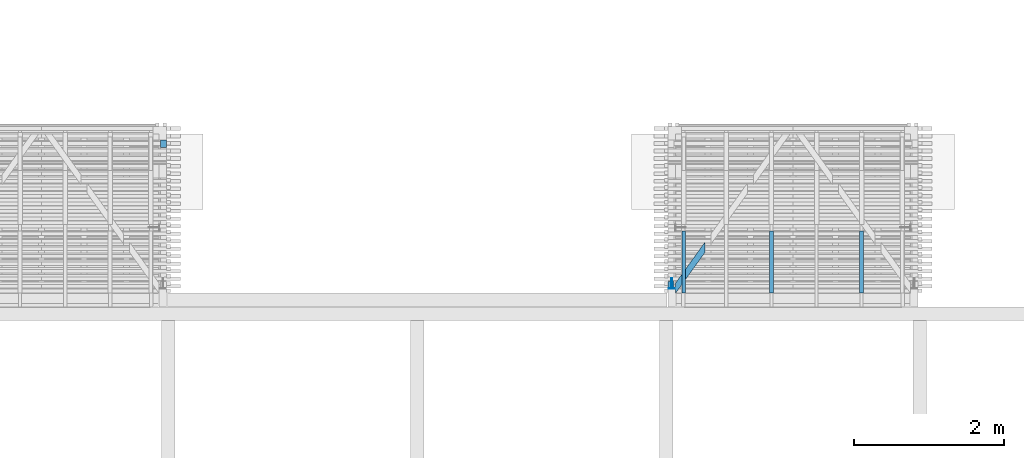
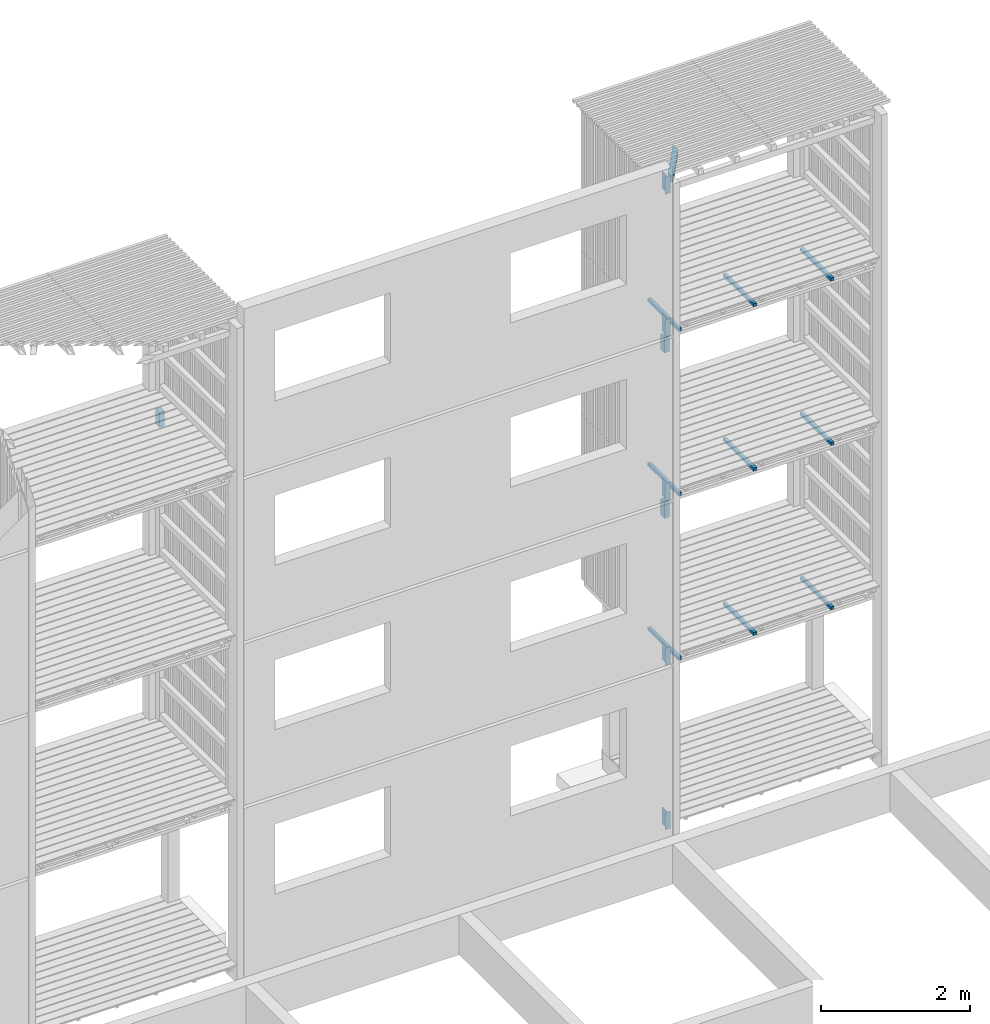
# One storey, part 174 of 182: 18 beams.
"""IFC2X3 building model written with IfcOpenShell, lengths in metres."""

from ifc_helpers import new_model, si_unit, frame, origin, place, context, project, spatial, faceted_brep, element, save


model = new_model("IFC2X3")

# Units and contexts
model_context = context("Model", 3, precision=1e-06, world=origin())
ifc_project = project(units=[si_unit("LENGTHUNIT", "METRE"), si_unit("PLANEANGLEUNIT", "RADIAN")], contexts=[model_context])

# Site, building, storey
site = spatial("IfcSite", under=ifc_project, CompositionType="ELEMENT")
building = spatial("IfcBuilding", under=site, CompositionType="ELEMENT")
storey = spatial("IfcBuildingStorey", under=building, Name="vs", CompositionType="ELEMENT", Elevation=-0.85)

# Beams
placement = place(None, origin())
beam_1_placement = place(placement, frame((55.60299999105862, 5.055077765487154, 5.217999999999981), z_axis=(0.0, 0.0, 1.0), x_axis=(0.0, 1.0, 0.0)))
element("IfcBeam", 1, at=beam_1_placement, inside=storey, Name="Calage", context=model_context, shape_type="Brep", body=[
    faceted_brep([(0.824999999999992, -0.025000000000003, 0.024999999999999), (0.824999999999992, 0.024999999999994, 0.024999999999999), (-1e-15, 0.024999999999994, 0.024999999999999), (-1e-15, -0.025000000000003, 0.024999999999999), (-1e-15, 0.024999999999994, 0.024999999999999), (0.824999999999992, 0.024999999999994, 0.024999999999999), (0.824999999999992, 0.024999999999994, -0.025), (-1e-15, 0.024999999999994, -0.025), (0.824999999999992, 0.024999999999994, 0.024999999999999), (0.824999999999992, -0.025000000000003, 0.024999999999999), (0.824999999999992, -0.025000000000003, -0.025), (0.824999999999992, 0.024999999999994, -0.025), (0.824999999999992, -0.025000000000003, -0.025), (0.824999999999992, -0.025000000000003, 0.024999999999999), (-1e-15, -0.025000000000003, 0.024999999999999), (-1e-15, -0.025000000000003, -0.025), (-1e-15, 0.024999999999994, -0.025), (0.824999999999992, 0.024999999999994, -0.025), (0.824999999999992, -0.025000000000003, -0.025), (-1e-15, -0.025000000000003, -0.025), (-1e-15, 0.024999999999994, 0.024999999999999), (-1e-15, 0.024999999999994, -0.025), (-1e-15, -0.025000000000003, -0.025), (-1e-15, -0.025000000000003, 0.024999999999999)], [[[0, 1, 2, 3]], [[4, 5, 6, 7]], [[8, 9, 10, 11]], [[12, 13, 14, 15]], [[16, 17, 18, 19]], [[20, 21, 22, 23]]]),
])
beam_2_placement = place(placement, frame((53.033999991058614, 5.181077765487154, 5.279999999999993), z_axis=(0.0, 0.0, 1.0), x_axis=(1.0, 0.0, 0.0)))
element("IfcBeam", 2, at=beam_2_placement, inside=storey, Name="Contre-usinage", context=model_context, shape_type="Brep", body=[
    faceted_brep([(0.037000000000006, -0.065999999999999, -0.140000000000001), (0.037000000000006, 0.071000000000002, -0.140000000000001), (0.045000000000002, 0.071000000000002, -0.140000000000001), (0.045000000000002, -0.065999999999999, -0.140000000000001), (0.082000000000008, -0.065999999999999, -0.140000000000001), (0.082000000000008, -0.071000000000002, -0.140000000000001), (0.0, -0.071000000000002, -0.140000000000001), (0.0, -0.065999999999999, -0.140000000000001), (0.045000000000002, 0.071000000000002, -0.140000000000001), (0.037000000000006, 0.071000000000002, -0.140000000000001), (0.037000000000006, 0.071000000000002, 0.140000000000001), (0.045000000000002, 0.071000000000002, 0.140000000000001), (0.045000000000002, -0.065999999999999, 0.140000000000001), (0.045000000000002, -0.065999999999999, -0.140000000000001), (0.045000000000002, 0.071000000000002, -0.140000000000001), (0.045000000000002, 0.071000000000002, 0.140000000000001), (0.082000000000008, -0.065999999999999, -0.140000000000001), (0.045000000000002, -0.065999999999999, -0.140000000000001), (0.045000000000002, -0.065999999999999, 0.140000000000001), (0.082000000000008, -0.065999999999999, 0.140000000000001), (0.082000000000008, -0.071000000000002, -0.140000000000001), (0.082000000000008, -0.065999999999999, -0.140000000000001), (0.082000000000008, -0.065999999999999, 0.140000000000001), (0.082000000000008, -0.071000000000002, 0.140000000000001), (0.0, -0.071000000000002, -0.140000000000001), (0.082000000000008, -0.071000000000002, -0.140000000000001), (0.082000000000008, -0.071000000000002, 0.140000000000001), (0.0, -0.071000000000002, 0.140000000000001), (0.0, -0.065999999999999, -0.140000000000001), (0.0, -0.071000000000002, -0.140000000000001), (0.0, -0.071000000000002, 0.140000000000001), (0.0, -0.065999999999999, 0.140000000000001), (0.037000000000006, -0.065999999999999, -0.140000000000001), (0.0, -0.065999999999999, -0.140000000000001), (0.0, -0.065999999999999, 0.140000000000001), (0.037000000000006, -0.065999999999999, 0.140000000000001), (0.037000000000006, 0.071000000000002, 0.140000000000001), (0.037000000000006, 0.071000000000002, -0.140000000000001), (0.037000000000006, -0.065999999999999, -0.140000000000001), (0.037000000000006, -0.065999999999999, 0.140000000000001), (0.082000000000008, -0.065999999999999, 0.140000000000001), (0.045000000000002, -0.065999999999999, 0.140000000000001), (0.045000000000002, 0.071000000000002, 0.140000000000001), (0.037000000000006, 0.071000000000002, 0.140000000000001), (0.037000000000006, -0.065999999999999, 0.140000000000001), (0.0, -0.065999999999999, 0.140000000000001), (0.0, -0.071000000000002, 0.140000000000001), (0.082000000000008, -0.071000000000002, 0.140000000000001)], [[[0, 1, 2, 3, 4, 5, 6, 7]], [[8, 9, 10, 11]], [[12, 13, 14, 15]], [[16, 17, 18, 19]], [[20, 21, 22, 23]], [[24, 25, 26, 27]], [[28, 29, 30, 31]], [[32, 33, 34, 35]], [[36, 37, 38, 39]], [[40, 41, 42, 43, 44, 45, 46, 47]]]),
])
beam_3_placement = place(placement, frame((53.033999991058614, 5.181077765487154, 2.579999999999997), z_axis=(0.0, 0.0, 1.0), x_axis=(1.0, 0.0, 0.0)))
element("IfcBeam", 3, at=beam_3_placement, inside=storey, Name="Contre-usinage", context=model_context, shape_type="Brep", body=[
    faceted_brep([(0.037000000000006, -0.065999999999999, -0.14), (0.037000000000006, 0.071000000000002, -0.14), (0.045000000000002, 0.071000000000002, -0.14), (0.045000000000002, -0.065999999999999, -0.14), (0.082000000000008, -0.065999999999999, -0.14), (0.082000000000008, -0.071000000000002, -0.14), (0.0, -0.071000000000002, -0.14), (0.0, -0.065999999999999, -0.14), (0.045000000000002, 0.071000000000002, -0.14), (0.037000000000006, 0.071000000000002, -0.14), (0.037000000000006, 0.071000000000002, 0.14), (0.045000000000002, 0.071000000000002, 0.14), (0.045000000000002, -0.065999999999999, 0.14), (0.045000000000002, -0.065999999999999, -0.14), (0.045000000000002, 0.071000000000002, -0.14), (0.045000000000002, 0.071000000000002, 0.14), (0.082000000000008, -0.065999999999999, -0.14), (0.045000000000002, -0.065999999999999, -0.14), (0.045000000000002, -0.065999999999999, 0.14), (0.082000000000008, -0.065999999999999, 0.14), (0.082000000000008, -0.071000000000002, -0.14), (0.082000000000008, -0.065999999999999, -0.14), (0.082000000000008, -0.065999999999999, 0.14), (0.082000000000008, -0.071000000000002, 0.14), (0.0, -0.071000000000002, -0.14), (0.082000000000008, -0.071000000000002, -0.14), (0.082000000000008, -0.071000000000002, 0.14), (0.0, -0.071000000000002, 0.14), (0.0, -0.065999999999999, -0.14), (0.0, -0.071000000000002, -0.14), (0.0, -0.071000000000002, 0.14), (0.0, -0.065999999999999, 0.14), (0.037000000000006, -0.065999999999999, -0.14), (0.0, -0.065999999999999, -0.14), (0.0, -0.065999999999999, 0.14), (0.037000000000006, -0.065999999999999, 0.14), (0.037000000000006, 0.071000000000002, 0.14), (0.037000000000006, 0.071000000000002, -0.14), (0.037000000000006, -0.065999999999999, -0.14), (0.037000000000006, -0.065999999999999, 0.14), (0.082000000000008, -0.065999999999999, 0.14), (0.045000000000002, -0.065999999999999, 0.14), (0.045000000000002, 0.071000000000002, 0.14), (0.037000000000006, 0.071000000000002, 0.14), (0.037000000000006, -0.065999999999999, 0.14), (0.0, -0.065999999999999, 0.14), (0.0, -0.071000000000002, 0.14), (0.082000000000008, -0.071000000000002, 0.14)], [[[0, 1, 2, 3, 4, 5, 6, 7]], [[8, 9, 10, 11]], [[12, 13, 14, 15]], [[16, 17, 18, 19]], [[20, 21, 22, 23]], [[24, 25, 26, 27]], [[28, 29, 30, 31]], [[32, 33, 34, 35]], [[36, 37, 38, 39]], [[40, 41, 42, 43, 44, 45, 46, 47]]]),
])
beam_4_placement = place(placement, frame((53.03399999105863, 5.181077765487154, 7.979999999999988), z_axis=(0.0, 0.0, 1.0), x_axis=(1.0, 0.0, 0.0)))
element("IfcBeam", 4, at=beam_4_placement, inside=storey, Name="Contre-usinage", context=model_context, shape_type="Brep", body=[
    faceted_brep([(0.036999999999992, -0.065999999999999, -0.14), (0.036999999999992, 0.071000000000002, -0.14), (0.044999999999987, 0.071000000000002, -0.14), (0.044999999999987, -0.065999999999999, -0.14), (0.081999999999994, -0.065999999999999, -0.14), (0.081999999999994, -0.071000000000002, -0.14), (0.0, -0.071000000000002, -0.14), (0.0, -0.065999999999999, -0.14), (0.044999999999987, 0.071000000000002, -0.14), (0.036999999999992, 0.071000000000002, -0.14), (0.036999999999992, 0.071000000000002, 0.140000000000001), (0.044999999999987, 0.071000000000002, 0.140000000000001), (0.044999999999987, -0.065999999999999, 0.140000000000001), (0.044999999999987, -0.065999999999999, -0.14), (0.044999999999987, 0.071000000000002, -0.14), (0.044999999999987, 0.071000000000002, 0.140000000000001), (0.081999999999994, -0.065999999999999, -0.14), (0.044999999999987, -0.065999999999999, -0.14), (0.044999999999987, -0.065999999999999, 0.140000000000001), (0.081999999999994, -0.065999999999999, 0.140000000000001), (0.081999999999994, -0.071000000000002, -0.14), (0.081999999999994, -0.065999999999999, -0.14), (0.081999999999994, -0.065999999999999, 0.140000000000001), (0.081999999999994, -0.071000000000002, 0.140000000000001), (0.0, -0.071000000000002, -0.14), (0.081999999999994, -0.071000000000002, -0.14), (0.081999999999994, -0.071000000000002, 0.140000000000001), (0.0, -0.071000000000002, 0.140000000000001), (0.0, -0.065999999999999, -0.14), (0.0, -0.071000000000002, -0.14), (0.0, -0.071000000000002, 0.140000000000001), (0.0, -0.065999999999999, 0.140000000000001), (0.036999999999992, -0.065999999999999, -0.14), (0.0, -0.065999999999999, -0.14), (0.0, -0.065999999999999, 0.140000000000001), (0.036999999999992, -0.065999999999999, 0.140000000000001), (0.036999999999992, 0.071000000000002, 0.140000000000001), (0.036999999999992, 0.071000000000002, -0.14), (0.036999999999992, -0.065999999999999, -0.14), (0.036999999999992, -0.065999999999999, 0.140000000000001), (0.081999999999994, -0.065999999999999, 0.140000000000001), (0.044999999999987, -0.065999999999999, 0.140000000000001), (0.044999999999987, 0.071000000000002, 0.140000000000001), (0.036999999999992, 0.071000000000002, 0.140000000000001), (0.036999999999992, -0.065999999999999, 0.140000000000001), (0.0, -0.065999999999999, 0.140000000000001), (0.0, -0.071000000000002, 0.140000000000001), (0.081999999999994, -0.071000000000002, 0.140000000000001)], [[[0, 1, 2, 3, 4, 5, 6, 7]], [[8, 9, 10, 11]], [[12, 13, 14, 15]], [[16, 17, 18, 19]], [[20, 21, 22, 23]], [[24, 25, 26, 27]], [[28, 29, 30, 31]], [[32, 33, 34, 35]], [[36, 37, 38, 39]], [[40, 41, 42, 43, 44, 45, 46, 47]]]),
])
for number, where, z_axis, x_axis in (
    (5, (53.23499999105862, 5.055077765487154, 2.517999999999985), (0.0, 0.0, 1.0), (0.0, 1.0, 0.0)),
    (6, (54.402999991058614, 5.055077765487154, 2.517999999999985), (0.0, 0.0, 1.0), (0.0, 1.0, 0.0)),
):
    element("IfcBeam", number, at=place(placement, frame(where, z_axis=z_axis, x_axis=x_axis)), inside=storey, Name="Calage", context=model_context, shape_type="Brep", body=[
        faceted_brep([(0.824999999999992, -0.025000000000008, 0.025), (0.824999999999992, 0.024999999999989, 0.025), (-1e-15, 0.024999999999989, 0.025), (-1e-15, -0.025000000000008, 0.025), (-1e-15, 0.024999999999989, 0.025), (0.824999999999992, 0.024999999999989, 0.025), (0.824999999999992, 0.024999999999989, -0.025), (-1e-15, 0.024999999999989, -0.025), (0.824999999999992, 0.024999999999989, 0.025), (0.824999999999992, -0.025000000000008, 0.025), (0.824999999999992, -0.025000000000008, -0.025), (0.824999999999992, 0.024999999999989, -0.025), (0.824999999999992, -0.025000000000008, -0.025), (0.824999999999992, -0.025000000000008, 0.025), (-1e-15, -0.025000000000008, 0.025), (-1e-15, -0.025000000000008, -0.025), (-1e-15, 0.024999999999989, -0.025), (0.824999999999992, 0.024999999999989, -0.025), (0.824999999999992, -0.025000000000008, -0.025), (-1e-15, -0.025000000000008, -0.025), (-1e-15, 0.024999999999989, 0.025), (-1e-15, 0.024999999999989, -0.025), (-1e-15, -0.025000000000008, -0.025), (-1e-15, -0.025000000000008, 0.025)], [[[0, 1, 2, 3]], [[4, 5, 6, 7]], [[8, 9, 10, 11]], [[12, 13, 14, 15]], [[16, 17, 18, 19]], [[20, 21, 22, 23]]]),
    ])
beam_5_placement = place(placement, frame((53.033999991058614, 5.181077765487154, -0.119999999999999), z_axis=(0.0, 0.0, 1.0), x_axis=(1.0, 0.0, 0.0)))
element("IfcBeam", 7, at=beam_5_placement, inside=storey, Name="Contre-usinage", context=model_context, shape_type="Brep", body=[
    faceted_brep([(0.037000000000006, -0.065999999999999, -0.14), (0.037000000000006, 0.071000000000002, -0.14), (0.045000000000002, 0.071000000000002, -0.14), (0.045000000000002, -0.065999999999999, -0.14), (0.082000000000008, -0.065999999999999, -0.14), (0.082000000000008, -0.071000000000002, -0.14), (0.0, -0.071000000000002, -0.14), (0.0, -0.065999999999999, -0.14), (0.045000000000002, 0.071000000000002, -0.14), (0.037000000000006, 0.071000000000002, -0.14), (0.037000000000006, 0.071000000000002, 0.14), (0.045000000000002, 0.071000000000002, 0.14), (0.045000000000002, -0.065999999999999, 0.14), (0.045000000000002, -0.065999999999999, -0.14), (0.045000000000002, 0.071000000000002, -0.14), (0.045000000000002, 0.071000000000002, 0.14), (0.082000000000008, -0.065999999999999, -0.14), (0.045000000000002, -0.065999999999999, -0.14), (0.045000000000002, -0.065999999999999, 0.14), (0.082000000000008, -0.065999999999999, 0.14), (0.082000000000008, -0.071000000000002, -0.14), (0.082000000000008, -0.065999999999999, -0.14), (0.082000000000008, -0.065999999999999, 0.14), (0.082000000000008, -0.071000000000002, 0.14), (0.0, -0.071000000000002, -0.14), (0.082000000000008, -0.071000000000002, -0.14), (0.082000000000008, -0.071000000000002, 0.14), (0.0, -0.071000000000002, 0.14), (0.0, -0.065999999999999, -0.14), (0.0, -0.071000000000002, -0.14), (0.0, -0.071000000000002, 0.14), (0.0, -0.065999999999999, 0.14), (0.037000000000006, -0.065999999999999, -0.14), (0.0, -0.065999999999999, -0.14), (0.0, -0.065999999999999, 0.14), (0.037000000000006, -0.065999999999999, 0.14), (0.037000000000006, 0.071000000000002, 0.14), (0.037000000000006, 0.071000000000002, -0.14), (0.037000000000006, -0.065999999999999, -0.14), (0.037000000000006, -0.065999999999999, 0.14), (0.082000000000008, -0.065999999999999, 0.14), (0.045000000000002, -0.065999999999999, 0.14), (0.045000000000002, 0.071000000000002, 0.14), (0.037000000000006, 0.071000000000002, 0.14), (0.037000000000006, -0.065999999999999, 0.14), (0.0, -0.065999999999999, 0.14), (0.0, -0.071000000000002, 0.14), (0.082000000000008, -0.071000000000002, 0.14)], [[[0, 1, 2, 3, 4, 5, 6, 7]], [[8, 9, 10, 11]], [[12, 13, 14, 15]], [[16, 17, 18, 19]], [[20, 21, 22, 23]], [[24, 25, 26, 27]], [[28, 29, 30, 31]], [[32, 33, 34, 35]], [[36, 37, 38, 39]], [[40, 41, 42, 43, 44, 45, 46, 47]]]),
])
beam_6_placement = place(placement, frame((55.60299999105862, 5.055077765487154, 7.917999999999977), z_axis=(0.0, 0.0, 1.0), x_axis=(0.0, 1.0, 0.0)))
element("IfcBeam", 8, at=beam_6_placement, inside=storey, Name="Calage", context=model_context, shape_type="Brep", body=[
    faceted_brep([(0.824999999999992, -0.025000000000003, 0.024999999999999), (0.824999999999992, 0.024999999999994, 0.024999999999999), (-1e-15, 0.024999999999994, 0.024999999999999), (-1e-15, -0.025000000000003, 0.024999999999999), (-1e-15, 0.024999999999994, 0.024999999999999), (0.824999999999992, 0.024999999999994, 0.024999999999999), (0.824999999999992, 0.024999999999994, -0.025), (-1e-15, 0.024999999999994, -0.025), (0.824999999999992, 0.024999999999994, 0.024999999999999), (0.824999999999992, -0.025000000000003, 0.024999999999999), (0.824999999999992, -0.025000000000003, -0.025), (0.824999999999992, 0.024999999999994, -0.025), (0.824999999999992, -0.025000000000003, -0.025), (0.824999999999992, -0.025000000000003, 0.024999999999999), (-1e-15, -0.025000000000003, 0.024999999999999), (-1e-15, -0.025000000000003, -0.025), (-1e-15, 0.024999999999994, -0.025), (0.824999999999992, 0.024999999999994, -0.025), (0.824999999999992, -0.025000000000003, -0.025), (-1e-15, -0.025000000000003, -0.025), (-1e-15, 0.024999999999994, 0.024999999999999), (-1e-15, 0.024999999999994, -0.025), (-1e-15, -0.025000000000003, -0.025), (-1e-15, -0.025000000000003, 0.024999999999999)], [[[0, 1, 2, 3]], [[4, 5, 6, 7]], [[8, 9, 10, 11]], [[12, 13, 14, 15]], [[16, 17, 18, 19]], [[20, 21, 22, 23]]]),
])
beam_7_placement = place(placement, frame((53.092528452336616, 5.073435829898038, 10.404999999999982), z_axis=(0.0, 0.0, 1.0), x_axis=(0.583951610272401, 0.811788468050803, 0.0)))
element("IfcBeam", 9, at=beam_7_placement, inside=storey, Name="Support bardage", context=model_context, shape_type="Brep", body=[
    faceted_brep([(0.670717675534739, -0.039999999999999, 0.050000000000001), (0.670717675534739, -0.039999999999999, -0.050000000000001), (0.781930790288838, 0.040000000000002, -0.050000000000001), (0.781930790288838, 0.040000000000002, 0.050000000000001), (4e-15, -0.040000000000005, 0.050000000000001), (0.670717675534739, -0.039999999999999, 0.050000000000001), (0.781930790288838, 0.040000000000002, 0.050000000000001), (0.111213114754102, 0.039999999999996, 0.050000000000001), (0.111213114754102, 0.039999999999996, -0.049999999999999), (0.781930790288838, 0.040000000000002, -0.050000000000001), (0.670717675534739, -0.039999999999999, -0.050000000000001), (4e-15, -0.040000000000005, -0.050000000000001), (4e-15, -0.040000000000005, -0.050000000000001), (0.670717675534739, -0.039999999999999, -0.050000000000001), (0.670717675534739, -0.039999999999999, 0.050000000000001), (4e-15, -0.040000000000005, 0.050000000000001), (0.111213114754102, 0.039999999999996, -0.049999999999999), (4e-15, -0.040000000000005, -0.050000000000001), (4e-15, -0.040000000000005, 0.050000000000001), (0.111213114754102, 0.039999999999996, 0.050000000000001), (0.111213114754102, 0.039999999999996, -0.049999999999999), (0.111213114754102, 0.039999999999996, 0.050000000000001), (0.781930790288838, 0.040000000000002, 0.050000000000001), (0.781930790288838, 0.040000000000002, -0.050000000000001)], [[[0, 1, 2, 3]], [[4, 5, 6, 7]], [[8, 9, 10, 11]], [[12, 13, 14, 15]], [[16, 17, 18, 19]], [[20, 21, 22, 23]]]),
])
beam_8_placement = place(placement, frame((53.23499999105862, 5.055077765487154, 5.217999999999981), z_axis=(0.0, 0.0, 1.0), x_axis=(0.0, 1.0, 0.0)))
element("IfcBeam", 10, at=beam_8_placement, inside=storey, Name="Calage", context=model_context, shape_type="Brep", body=[
    faceted_brep([(0.824999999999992, -0.025000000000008, 0.024999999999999), (0.824999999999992, 0.024999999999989, 0.024999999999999), (-1e-15, 0.024999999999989, 0.024999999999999), (-1e-15, -0.025000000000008, 0.024999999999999), (-1e-15, 0.024999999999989, 0.024999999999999), (0.824999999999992, 0.024999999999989, 0.024999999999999), (0.824999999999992, 0.024999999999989, -0.025), (-1e-15, 0.024999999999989, -0.025), (0.824999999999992, 0.024999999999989, 0.024999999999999), (0.824999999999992, -0.025000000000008, 0.024999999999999), (0.824999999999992, -0.025000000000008, -0.025), (0.824999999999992, 0.024999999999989, -0.025), (0.824999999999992, -0.025000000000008, -0.025), (0.824999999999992, -0.025000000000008, 0.024999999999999), (-1e-15, -0.025000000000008, 0.024999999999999), (-1e-15, -0.025000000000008, -0.025), (-1e-15, 0.024999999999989, -0.025), (0.824999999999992, 0.024999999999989, -0.025), (0.824999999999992, -0.025000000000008, -0.025), (-1e-15, -0.025000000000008, -0.025), (-1e-15, 0.024999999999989, 0.024999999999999), (-1e-15, 0.024999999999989, -0.025), (-1e-15, -0.025000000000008, -0.025), (-1e-15, -0.025000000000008, 0.024999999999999)], [[[0, 1, 2, 3]], [[4, 5, 6, 7]], [[8, 9, 10, 11]], [[12, 13, 14, 15]], [[16, 17, 18, 19]], [[20, 21, 22, 23]]]),
])
beam_9_placement = place(placement, frame((54.40299999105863, 5.055077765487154, 7.917999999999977), z_axis=(0.0, 0.0, 1.0), x_axis=(0.0, 1.0, 0.0)))
element("IfcBeam", 11, at=beam_9_placement, inside=storey, Name="Calage", context=model_context, shape_type="Brep", body=[
    faceted_brep([(0.824999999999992, -0.024999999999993, 0.024999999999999), (0.824999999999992, 0.025000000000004, 0.024999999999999), (-1e-15, 0.025000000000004, 0.024999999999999), (-1e-15, -0.024999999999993, 0.024999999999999), (-1e-15, 0.025000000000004, 0.024999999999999), (0.824999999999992, 0.025000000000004, 0.024999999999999), (0.824999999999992, 0.025000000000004, -0.025), (-1e-15, 0.025000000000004, -0.025), (0.824999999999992, 0.025000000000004, 0.024999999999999), (0.824999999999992, -0.024999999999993, 0.024999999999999), (0.824999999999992, -0.024999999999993, -0.025), (0.824999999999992, 0.025000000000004, -0.025), (0.824999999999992, -0.024999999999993, -0.025), (0.824999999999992, -0.024999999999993, 0.024999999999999), (-1e-15, -0.024999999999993, 0.024999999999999), (-1e-15, -0.024999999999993, -0.025), (-1e-15, 0.025000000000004, -0.025), (0.824999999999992, 0.025000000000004, -0.025), (0.824999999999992, -0.024999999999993, -0.025), (-1e-15, -0.024999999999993, -0.025), (-1e-15, 0.025000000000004, 0.024999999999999), (-1e-15, 0.025000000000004, -0.025), (-1e-15, -0.024999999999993, -0.025), (-1e-15, -0.024999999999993, 0.024999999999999)], [[[0, 1, 2, 3]], [[4, 5, 6, 7]], [[8, 9, 10, 11]], [[12, 13, 14, 15]], [[16, 17, 18, 19]], [[20, 21, 22, 23]]]),
])
beam_10_placement = place(placement, frame((55.60299999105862, 5.055077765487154, 2.517999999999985), z_axis=(0.0, 0.0, 1.0), x_axis=(0.0, 1.0, 0.0)))
element("IfcBeam", 12, at=beam_10_placement, inside=storey, Name="Calage", context=model_context, shape_type="Brep", body=[
    faceted_brep([(0.824999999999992, -0.025000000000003, 0.025), (0.824999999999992, 0.024999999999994, 0.025), (-1e-15, 0.024999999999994, 0.025), (-1e-15, -0.025000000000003, 0.025), (-1e-15, 0.024999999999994, 0.025), (0.824999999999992, 0.024999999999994, 0.025), (0.824999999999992, 0.024999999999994, -0.025), (-1e-15, 0.024999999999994, -0.025), (0.824999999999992, 0.024999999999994, 0.025), (0.824999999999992, -0.025000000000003, 0.025), (0.824999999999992, -0.025000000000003, -0.025), (0.824999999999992, 0.024999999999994, -0.025), (0.824999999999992, -0.025000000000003, -0.025), (0.824999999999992, -0.025000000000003, 0.025), (-1e-15, -0.025000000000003, 0.025), (-1e-15, -0.025000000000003, -0.025), (-1e-15, 0.024999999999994, -0.025), (0.824999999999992, 0.024999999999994, -0.025), (0.824999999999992, -0.025000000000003, -0.025), (-1e-15, -0.025000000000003, -0.025), (-1e-15, 0.024999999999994, 0.025), (-1e-15, 0.024999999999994, -0.025), (-1e-15, -0.025000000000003, -0.025), (-1e-15, -0.025000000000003, 0.025)], [[[0, 1, 2, 3]], [[4, 5, 6, 7]], [[8, 9, 10, 11]], [[12, 13, 14, 15]], [[16, 17, 18, 19]], [[20, 21, 22, 23]]]),
])
beam_11_placement = place(placement, frame((54.402999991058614, 5.055077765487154, 5.217999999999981), z_axis=(0.0, 0.0, 1.0), x_axis=(0.0, 1.0, 0.0)))
element("IfcBeam", 13, at=beam_11_placement, inside=storey, Name="Calage", context=model_context, shape_type="Brep", body=[
    faceted_brep([(0.824999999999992, -0.025000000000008, 0.024999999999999), (0.824999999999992, 0.024999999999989, 0.024999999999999), (-1e-15, 0.024999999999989, 0.024999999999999), (-1e-15, -0.025000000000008, 0.024999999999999), (-1e-15, 0.024999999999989, 0.024999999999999), (0.824999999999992, 0.024999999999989, 0.024999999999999), (0.824999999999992, 0.024999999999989, -0.025), (-1e-15, 0.024999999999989, -0.025), (0.824999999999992, 0.024999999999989, 0.024999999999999), (0.824999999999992, -0.025000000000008, 0.024999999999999), (0.824999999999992, -0.025000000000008, -0.025), (0.824999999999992, 0.024999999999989, -0.025), (0.824999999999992, -0.025000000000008, -0.025), (0.824999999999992, -0.025000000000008, 0.024999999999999), (-1e-15, -0.025000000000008, 0.024999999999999), (-1e-15, -0.025000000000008, -0.025), (-1e-15, 0.024999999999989, -0.025), (0.824999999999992, 0.024999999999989, -0.025), (0.824999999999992, -0.025000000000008, -0.025), (-1e-15, -0.025000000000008, -0.025), (-1e-15, 0.024999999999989, 0.024999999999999), (-1e-15, 0.024999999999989, -0.025), (-1e-15, -0.025000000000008, -0.025), (-1e-15, -0.025000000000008, 0.024999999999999)], [[[0, 1, 2, 3]], [[4, 5, 6, 7]], [[8, 9, 10, 11]], [[12, 13, 14, 15]], [[16, 17, 18, 19]], [[20, 21, 22, 23]]]),
])
beam_12_placement = place(placement, frame((53.03399999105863, 5.181077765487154, 10.314999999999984), z_axis=(0.0, 0.0, 1.0), x_axis=(1.0, 0.0, 0.0)))
element("IfcBeam", 14, at=beam_12_placement, inside=storey, Name="Contre-usinage", context=model_context, shape_type="Brep", body=[
    faceted_brep([(0.037000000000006, -0.065999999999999, -0.140000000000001), (0.037000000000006, 0.071000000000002, -0.140000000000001), (0.045000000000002, 0.071000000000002, -0.140000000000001), (0.045000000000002, -0.065999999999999, -0.140000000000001), (0.081999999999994, -0.065999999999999, -0.140000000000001), (0.081999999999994, -0.071000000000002, -0.140000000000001), (0.0, -0.071000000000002, -0.140000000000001), (0.0, -0.065999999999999, -0.140000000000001), (0.045000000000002, 0.071000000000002, -0.140000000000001), (0.037000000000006, 0.071000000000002, -0.140000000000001), (0.037000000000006, 0.071000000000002, 0.140000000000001), (0.045000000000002, 0.071000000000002, 0.140000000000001), (0.045000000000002, -0.065999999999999, 0.140000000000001), (0.045000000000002, -0.065999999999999, -0.140000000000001), (0.045000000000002, 0.071000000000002, -0.140000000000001), (0.045000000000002, 0.071000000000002, 0.140000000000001), (0.081999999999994, -0.065999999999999, -0.140000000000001), (0.045000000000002, -0.065999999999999, -0.140000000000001), (0.045000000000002, -0.065999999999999, 0.140000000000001), (0.081999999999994, -0.065999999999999, 0.140000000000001), (0.081999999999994, -0.071000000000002, -0.140000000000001), (0.081999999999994, -0.065999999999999, -0.140000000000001), (0.081999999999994, -0.065999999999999, 0.140000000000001), (0.081999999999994, -0.071000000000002, 0.140000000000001), (0.0, -0.071000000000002, -0.140000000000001), (0.081999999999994, -0.071000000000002, -0.140000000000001), (0.081999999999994, -0.071000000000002, 0.140000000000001), (0.0, -0.071000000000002, 0.140000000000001), (0.0, -0.065999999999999, -0.140000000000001), (0.0, -0.071000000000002, -0.140000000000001), (0.0, -0.071000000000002, 0.140000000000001), (0.0, -0.065999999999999, 0.140000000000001), (0.037000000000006, -0.065999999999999, -0.140000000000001), (0.0, -0.065999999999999, -0.140000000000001), (0.0, -0.065999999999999, 0.140000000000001), (0.037000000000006, -0.065999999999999, 0.140000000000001), (0.037000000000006, 0.071000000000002, 0.140000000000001), (0.037000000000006, 0.071000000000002, -0.140000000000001), (0.037000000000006, -0.065999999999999, -0.140000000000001), (0.037000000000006, -0.065999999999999, 0.140000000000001), (0.081999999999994, -0.065999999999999, 0.140000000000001), (0.045000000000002, -0.065999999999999, 0.140000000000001), (0.045000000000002, 0.071000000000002, 0.140000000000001), (0.037000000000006, 0.071000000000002, 0.140000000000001), (0.037000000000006, -0.065999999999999, 0.140000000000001), (0.0, -0.065999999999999, 0.140000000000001), (0.0, -0.071000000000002, 0.140000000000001), (0.081999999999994, -0.071000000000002, 0.140000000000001)], [[[0, 1, 2, 3, 4, 5, 6, 7]], [[8, 9, 10, 11]], [[12, 13, 14, 15]], [[16, 17, 18, 19]], [[20, 21, 22, 23]], [[24, 25, 26, 27]], [[28, 29, 30, 31]], [[32, 33, 34, 35]], [[36, 37, 38, 39]], [[40, 41, 42, 43, 44, 45, 46, 47]]]),
])
beam_13_placement = place(placement, frame((53.23499999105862, 5.055077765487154, 7.917999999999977), z_axis=(0.0, 0.0, 1.0), x_axis=(0.0, 1.0, 0.0)))
element("IfcBeam", 15, at=beam_13_placement, inside=storey, Name="Calage", context=model_context, shape_type="Brep", body=[
    faceted_brep([(0.824999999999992, -0.025000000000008, 0.024999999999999), (0.824999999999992, 0.024999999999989, 0.024999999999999), (-1e-15, 0.024999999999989, 0.024999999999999), (-1e-15, -0.025000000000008, 0.024999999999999), (-1e-15, 0.024999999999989, 0.024999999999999), (0.824999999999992, 0.024999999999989, 0.024999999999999), (0.824999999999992, 0.024999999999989, -0.025), (-1e-15, 0.024999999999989, -0.025), (0.824999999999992, 0.024999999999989, 0.024999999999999), (0.824999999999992, -0.025000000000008, 0.024999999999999), (0.824999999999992, -0.025000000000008, -0.025), (0.824999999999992, 0.024999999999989, -0.025), (0.824999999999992, -0.025000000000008, -0.025), (0.824999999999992, -0.025000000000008, 0.024999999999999), (-1e-15, -0.025000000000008, 0.024999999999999), (-1e-15, -0.025000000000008, -0.025), (-1e-15, 0.024999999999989, -0.025), (0.824999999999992, 0.024999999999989, -0.025), (0.824999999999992, -0.025000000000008, -0.025), (-1e-15, -0.025000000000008, -0.025), (-1e-15, 0.024999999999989, 0.024999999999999), (-1e-15, 0.024999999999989, -0.025), (-1e-15, -0.025000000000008, -0.025), (-1e-15, -0.025000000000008, 0.024999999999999)], [[[0, 1, 2, 3]], [[4, 5, 6, 7]], [[8, 9, 10, 11]], [[12, 13, 14, 15]], [[16, 17, 18, 19]], [[20, 21, 22, 23]]]),
])
beam_14_placement = place(placement, frame((46.30540135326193, 7.040077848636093, 7.576188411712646), z_axis=(0.0, -1.0, 0.0), x_axis=(0.0, 0.0, 1.0)))
element("IfcBeam", 16, at=beam_14_placement, inside=storey, Name="Support bardage", context=model_context, shape_type="Brep", body=[
    faceted_brep([(0.248811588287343, -0.039999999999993, -0.05), (0.248811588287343, 0.04000000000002, -0.05), (0.248811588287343, 0.04000000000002, 0.050000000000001), (0.248811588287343, -0.039999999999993, 0.050000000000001), (0.248811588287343, -0.039999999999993, -0.05), (0.248811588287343, -0.039999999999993, 0.050000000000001), (0.0, -0.039999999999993, 0.050000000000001), (0.0, -0.039999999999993, -0.05), (0.0, -0.039999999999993, 0.050000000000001), (0.248811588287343, -0.039999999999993, 0.050000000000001), (0.248811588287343, 0.04000000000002, 0.050000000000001), (0.0, 0.04000000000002, 0.050000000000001), (0.0, 0.04000000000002, 0.050000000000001), (0.248811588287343, 0.04000000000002, 0.050000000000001), (0.248811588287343, 0.04000000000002, -0.05), (0.0, 0.04000000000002, -0.05), (0.0, 0.04000000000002, -0.05), (0.248811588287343, 0.04000000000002, -0.05), (0.248811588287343, -0.039999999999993, -0.05), (0.0, -0.039999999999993, -0.05), (0.0, 0.04000000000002, 0.050000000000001), (0.0, 0.04000000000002, -0.05), (0.0, -0.039999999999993, -0.05), (0.0, -0.039999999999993, 0.050000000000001)], [[[0, 1, 2, 3]], [[4, 5, 6, 7]], [[8, 9, 10, 11]], [[12, 13, 14, 15]], [[16, 17, 18, 19]], [[20, 21, 22, 23]]]),
])
beam_15_placement = place(placement, frame((53.06499999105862, 5.160077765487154, 7.576188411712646), z_axis=(0.0, 1.0, 0.0), x_axis=(0.0, 0.0, 1.0)))
element("IfcBeam", 17, at=beam_15_placement, inside=storey, Name="Support bardage", context=model_context, shape_type="Brep", body=[
    faceted_brep([(0.248811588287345, -0.039999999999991, 0.05), (0.248811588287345, -0.039999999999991, -0.050000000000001), (0.248811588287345, 0.040000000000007, -0.050000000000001), (0.248811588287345, 0.040000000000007, 0.05), (0.248811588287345, 0.040000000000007, -0.050000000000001), (0.248811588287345, -0.039999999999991, -0.050000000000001), (0.0, -0.039999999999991, -0.050000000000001), (0.0, 0.040000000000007, -0.050000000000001), (0.248811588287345, -0.039999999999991, -0.050000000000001), (0.248811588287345, -0.039999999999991, 0.05), (0.0, -0.039999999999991, 0.05), (0.0, -0.039999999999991, -0.050000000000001), (0.248811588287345, -0.039999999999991, 0.05), (0.248811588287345, 0.040000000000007, 0.05), (0.0, 0.040000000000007, 0.05), (0.0, -0.039999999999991, 0.05), (0.248811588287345, 0.040000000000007, 0.05), (0.248811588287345, 0.040000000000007, -0.050000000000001), (0.0, 0.040000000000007, -0.050000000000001), (0.0, 0.040000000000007, 0.05), (0.0, -0.039999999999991, 0.05), (0.0, 0.040000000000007, 0.05), (0.0, 0.040000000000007, -0.050000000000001), (0.0, -0.039999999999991, -0.050000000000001)], [[[0, 1, 2, 3]], [[4, 5, 6, 7]], [[8, 9, 10, 11]], [[12, 13, 14, 15]], [[16, 17, 18, 19]], [[20, 21, 22, 23]]]),
])
beam_16_placement = place(placement, frame((53.06499999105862, 5.160077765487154, 4.85796194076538), z_axis=(0.0, 1.0, 0.0), x_axis=(0.0, 0.0, 1.0)))
element("IfcBeam", 18, at=beam_16_placement, inside=storey, Name="Support bardage", context=model_context, shape_type="Brep", body=[
    faceted_brep([(0.267038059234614, -0.039999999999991, 0.05), (0.267038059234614, -0.039999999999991, -0.050000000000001), (0.267038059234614, 0.040000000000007, -0.050000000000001), (0.267038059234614, 0.040000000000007, 0.05), (0.267038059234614, 0.040000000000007, -0.050000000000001), (0.267038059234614, -0.039999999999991, -0.050000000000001), (0.0, -0.039999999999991, -0.050000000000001), (0.0, 0.040000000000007, -0.050000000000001), (0.267038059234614, 0.040000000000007, 0.05), (0.267038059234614, 0.040000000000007, -0.050000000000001), (0.0, 0.040000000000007, -0.050000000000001), (0.0, 0.040000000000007, 0.05), (0.267038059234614, -0.039999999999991, -0.050000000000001), (0.267038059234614, -0.039999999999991, 0.05), (0.0, -0.039999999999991, 0.05), (0.0, -0.039999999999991, -0.050000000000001), (0.267038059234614, -0.039999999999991, 0.05), (0.267038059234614, 0.040000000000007, 0.05), (0.0, 0.040000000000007, 0.05), (0.0, -0.039999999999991, 0.05), (0.0, -0.039999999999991, -0.050000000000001), (0.0, -0.039999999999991, 0.05), (0.0, 0.040000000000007, 0.05), (0.0, 0.040000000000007, -0.050000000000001)], [[[0, 1, 2, 3]], [[4, 5, 6, 7]], [[8, 9, 10, 11]], [[12, 13, 14, 15]], [[16, 17, 18, 19]], [[20, 21, 22, 23]]]),
])

save(model, "model.ifc")
